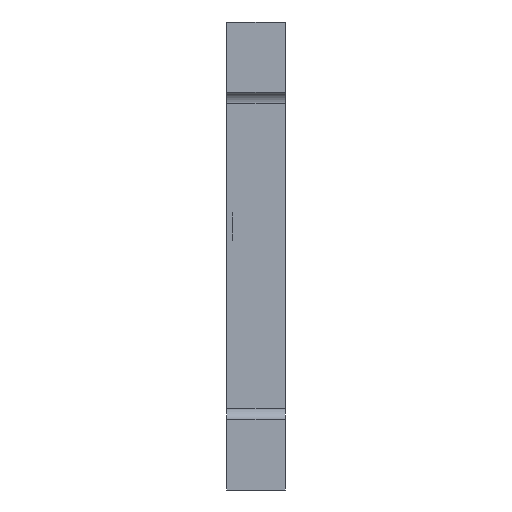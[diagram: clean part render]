
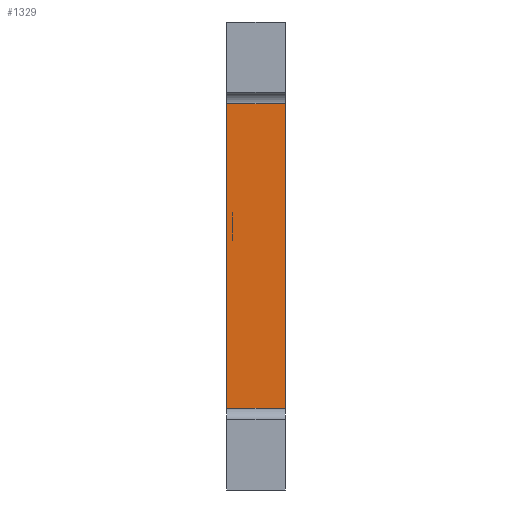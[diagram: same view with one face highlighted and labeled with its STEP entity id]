
A CAD part, left-side view. The second image highlights one B-rep face of the part: STEP entity #1329.
In plain terms, the highlighted planar face has unit normal (-1, 0, 0).
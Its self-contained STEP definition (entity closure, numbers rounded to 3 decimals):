
#128=FACE_OUTER_BOUND('',#205,.T.);
#205=EDGE_LOOP('',(#1156,#1157,#1158,#1159,#1160,#1161,#1162));
#300=LINE('',#1928,#430);
#301=LINE('',#1930,#431);
#325=LINE('',#2009,#455);
#326=LINE('',#2011,#456);
#404=LINE('',#2216,#534);
#405=LINE('',#2219,#535);
#406=LINE('',#2220,#536);
#430=VECTOR('',#1544,10.);
#431=VECTOR('',#1547,10.);
#455=VECTOR('',#1615,10.);
#456=VECTOR('',#1616,10.);
#534=VECTOR('',#1836,10.);
#535=VECTOR('',#1839,10.);
#536=VECTOR('',#1840,10.);
#567=VERTEX_POINT('',#1925);
#568=VERTEX_POINT('',#1927);
#601=VERTEX_POINT('',#2007);
#602=VERTEX_POINT('',#2010);
#658=VERTEX_POINT('',#2214);
#659=VERTEX_POINT('',#2218);
#695=EDGE_CURVE('',#567,#568,#300,.T.);
#697=EDGE_CURVE('',#567,#568,#301,.T.);
#737=EDGE_CURVE('',#601,#568,#325,.T.);
#738=EDGE_CURVE('',#568,#602,#326,.T.);
#843=EDGE_CURVE('',#658,#602,#404,.T.);
#844=EDGE_CURVE('',#659,#658,#405,.T.);
#845=EDGE_CURVE('',#659,#601,#406,.T.);
#1156=ORIENTED_EDGE('',*,*,#844,.T.);
#1157=ORIENTED_EDGE('',*,*,#843,.T.);
#1158=ORIENTED_EDGE('',*,*,#738,.F.);
#1159=ORIENTED_EDGE('',*,*,#695,.F.);
#1160=ORIENTED_EDGE('',*,*,#697,.T.);
#1161=ORIENTED_EDGE('',*,*,#737,.F.);
#1162=ORIENTED_EDGE('',*,*,#845,.F.);
#1264=PLANE('',#1468);
#1329=ADVANCED_FACE('',(#128),#1264,.T.);
#1468=AXIS2_PLACEMENT_3D('',#2217,#1837,#1838);
#1544=DIRECTION('',(0.,1.,0.));
#1547=DIRECTION('',(0.,1.,0.));
#1615=DIRECTION('',(0.,0.,1.));
#1616=DIRECTION('',(0.,0.,1.));
#1836=DIRECTION('',(0.,1.,0.));
#1837=DIRECTION('center_axis',(-1.,0.,0.));
#1838=DIRECTION('ref_axis',(0.,0.,1.));
#1839=DIRECTION('',(0.,0.,1.));
#1840=DIRECTION('',(0.,1.,0.));
#1925=CARTESIAN_POINT('',(-40.6,4.5,0.));
#1927=CARTESIAN_POINT('',(-40.6,5.,0.));
#1928=CARTESIAN_POINT('',(-40.6,4.5,0.));
#1930=CARTESIAN_POINT('',(-40.6,4.5,0.));
#2007=CARTESIAN_POINT('',(-40.6,5.,-15.5));
#2009=CARTESIAN_POINT('',(-40.6,5.,-15.5));
#2010=CARTESIAN_POINT('',(-40.6,5.,10.5));
#2011=CARTESIAN_POINT('',(-40.6,5.,-15.5));
#2214=CARTESIAN_POINT('',(-40.6,0.,10.5));
#2216=CARTESIAN_POINT('',(-40.6,0.,10.5));
#2217=CARTESIAN_POINT('Origin',(-40.6,0.,-15.5));
#2218=CARTESIAN_POINT('',(-40.6,0.,-15.5));
#2219=CARTESIAN_POINT('',(-40.6,0.,-15.5));
#2220=CARTESIAN_POINT('',(-40.6,0.,-15.5));
